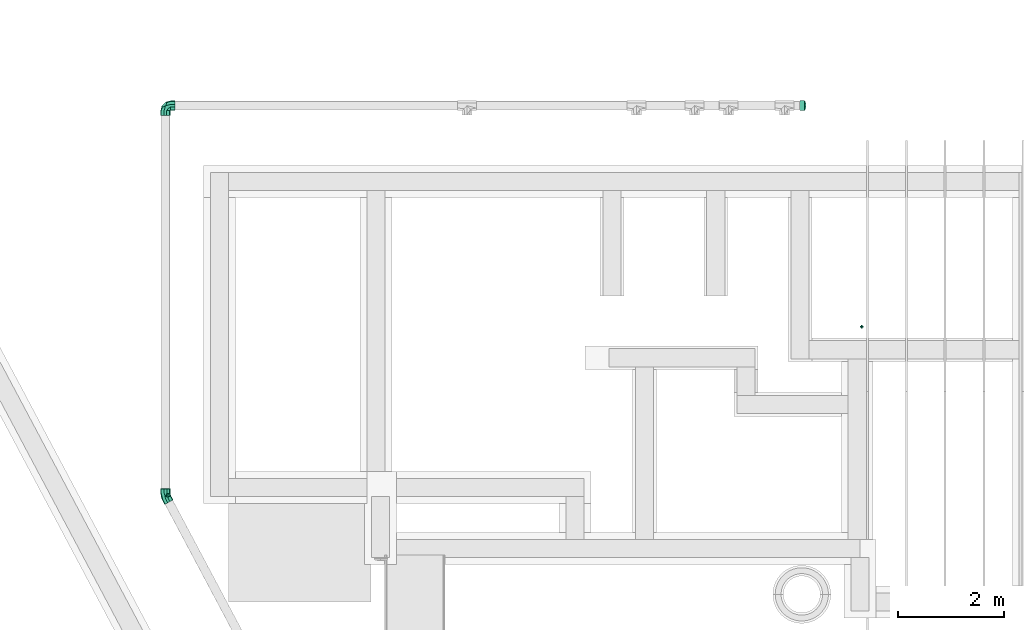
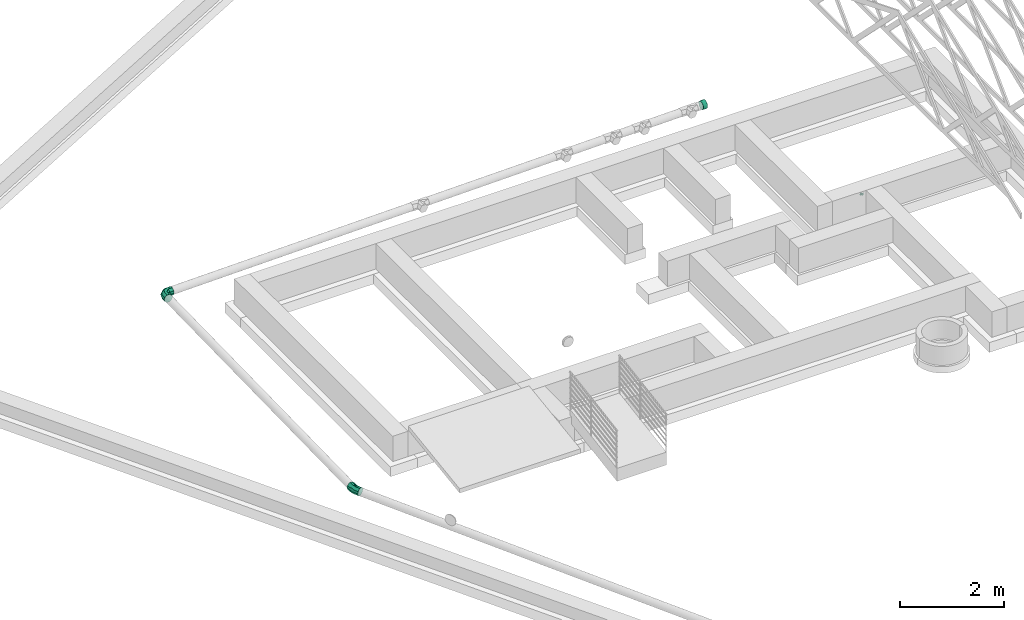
# One storey, part 7 of 8: 4 flow fittings.
"""IFC2X3 building model written with IfcOpenShell, lengths in millimetres."""

from ifc_helpers import new_model, entity, si_unit, converted_unit, derived_unit, direction, frame, origin, place, context, subcontext, project, spatial, faceted_brep, source, transform, mapped, type_object, type_shapes, element, save


model = new_model("IFC2X3")

# Units and contexts
model_context = context("Model", 3, precision=0.01, world=origin(), true_north=direction((6.12303176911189e-17, 1.0)))
body_context = subcontext(model_context, "Body", "Model", "MODEL_VIEW")
ifc_project = project(units=[si_unit("LENGTHUNIT", "METRE", prefix="MILLI"), si_unit("AREAUNIT", "SQUARE_METRE"), si_unit("VOLUMEUNIT", "CUBIC_METRE"), converted_unit("PLANEANGLEUNIT", "DEGREE", entity("IfcRatioMeasure", 0.0174532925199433), si_unit("PLANEANGLEUNIT", "RADIAN"), dimensions=[0, 0, 0, 0, 0, 0, 0]), si_unit("MASSUNIT", "GRAM", prefix="KILO"), derived_unit("MASSDENSITYUNIT", [(si_unit("MASSUNIT", "GRAM", prefix="KILO"), 1), (si_unit("LENGTHUNIT", "METRE"), -3)]), si_unit("TIMEUNIT", "SECOND"), si_unit("FREQUENCYUNIT", "HERTZ"), si_unit("THERMODYNAMICTEMPERATUREUNIT", "DEGREE_CELSIUS"), derived_unit("THERMALTRANSMITTANCEUNIT", [(si_unit("MASSUNIT", "GRAM", prefix="KILO"), 1), (si_unit("THERMODYNAMICTEMPERATUREUNIT", "KELVIN"), -1), (si_unit("TIMEUNIT", "SECOND"), -3)]), derived_unit("VOLUMETRICFLOWRATEUNIT", [(si_unit("LENGTHUNIT", "METRE"), 3), (si_unit("TIMEUNIT", "SECOND"), -1)]), si_unit("ELECTRICCURRENTUNIT", "AMPERE"), si_unit("ELECTRICVOLTAGEUNIT", "VOLT"), si_unit("POWERUNIT", "WATT"), si_unit("FORCEUNIT", "NEWTON", prefix="KILO"), si_unit("ILLUMINANCEUNIT", "LUX"), si_unit("LUMINOUSFLUXUNIT", "LUMEN"), si_unit("LUMINOUSINTENSITYUNIT", "CANDELA"), derived_unit("USERDEFINED", [(si_unit("MASSUNIT", "GRAM", prefix="KILO"), -1), (si_unit("LENGTHUNIT", "METRE"), -2), (si_unit("TIMEUNIT", "SECOND"), 3), (si_unit("LUMINOUSFLUXUNIT", "LUMEN"), 1)]), derived_unit("LINEARVELOCITYUNIT", [(si_unit("LENGTHUNIT", "METRE"), 1), (si_unit("TIMEUNIT", "SECOND"), -1)]), si_unit("PRESSUREUNIT", "PASCAL"), derived_unit("USERDEFINED", [(si_unit("LENGTHUNIT", "METRE"), -2), (si_unit("MASSUNIT", "GRAM", prefix="KILO"), 1), (si_unit("TIMEUNIT", "SECOND"), -2)])], contexts=[model_context])

# Site, building, storey
site_placement = place(None, origin())
site = spatial("IfcSite", under=ifc_project, at=site_placement, Name="Surface", CompositionType="ELEMENT")
building_placement = place(site_placement, origin())
building = spatial("IfcBuilding", under=site, at=building_placement, CompositionType="ELEMENT")
storey_placement = place(building_placement, frame((0.0, 0.0, -445.0)))
storey = spatial("IfcBuildingStorey", under=building, at=storey_placement, Name="T.O.F", CompositionType="ELEMENT", Elevation=-445.0)

# Flow fittings
pipe_fitting_type_1 = type_object("IfcPipeFittingType", Name="Standard", PredefinedType="NOTDEFINED")
shared_shape_1 = source(origin(), body_context, "Body", "Brep", [
    faceted_brep([(-133.349999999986, -92.0750000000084, 0.0), (-133.349999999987, -79.7392890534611, 46.0374999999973), (-133.34999999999, -23.830763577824, 88.9376204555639), (-133.349999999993, 23.8307635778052, 88.9376204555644), (-133.349999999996, 79.7392890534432, 46.0374999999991), (-133.349999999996, 92.0749999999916, 0.0), (-133.349999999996, 79.7392890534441, -46.0375000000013), (-133.349999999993, 23.8307635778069, -88.9376204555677), (-133.34999999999, -23.8307635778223, -88.937620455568), (-133.349999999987, -79.7392890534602, -46.0375000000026), (-44.4499999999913, -92.0750000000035, 0.0), (-44.4499999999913, -79.7392890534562, 46.0374999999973), (-44.4499999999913, -23.8307635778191, 88.9376204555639), (-44.4499999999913, 23.8307635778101, 88.9376204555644), (128.933070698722, 41.5498624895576, 88.9376204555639), (106.561535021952, 83.6347239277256, 88.9376204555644), (28.0633331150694, 41.9065284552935, 88.9376204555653), (50.4348687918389, -0.178332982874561, 88.9376204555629), (-44.4499999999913, 79.7392890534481, 46.0374999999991), (-44.4499999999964, 92.0749999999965, 0.0), (-44.4499999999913, 79.739289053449, -46.0375000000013), (-44.4499999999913, 23.8307635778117, -88.9376204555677), (-44.4499999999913, -23.8307635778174, -88.937620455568), (106.561535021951, 83.6347239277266, -88.9376204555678), (128.933070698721, 41.5498624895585, -88.9376204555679), (50.4348687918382, -0.178332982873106, -88.9376204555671), (28.0633331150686, 41.9065284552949, -88.9376204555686), (-44.4499999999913, -79.7392890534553, -46.0375000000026), (2.19588971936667, -8.80912651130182, 90.9204569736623), (-13.6369127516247, -87.0118063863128, 0.0), (42.0751683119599, -77.857220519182, 0.0), (4.0402064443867, -67.4725882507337, 57.127130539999), (-23.5903236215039, 94.6357184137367, 0.0), (1.82079228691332, 91.2734432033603, 46.037500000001), (76.6774096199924, -49.5452477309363, 46.0374999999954), (82.4675891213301, -60.4376113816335, 0.0), (-3.9693872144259, 102.16580685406, 0.0), (1.8207922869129, 91.2734432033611, -46.0375000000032), (2.19588972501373, -8.80912651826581, -90.9204569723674), (4.04020644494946, -67.4725882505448, -57.1271305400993), (76.6774096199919, -49.5452477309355, -46.0375000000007), (160.965791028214, -18.7094159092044, 0.0), (155.175611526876, -7.81705225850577, -46.0375000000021), (80.3189941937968, 133.001638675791, -46.0375000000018), (74.5288146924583, 143.894002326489, 0.0), (80.318994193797, 133.00163867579, 46.0374999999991), (155.175611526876, -7.81705225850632, 46.0374999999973)], [[[0, 1, 2, 3, 4, 5, 6, 7, 8, 9]], [[0, 10, 11, 1]], [[1, 11, 12, 2]], [[12, 13, 3, 2]], [[14, 15, 16, 17]], [[3, 13, 18, 4]], [[4, 18, 19, 5]], [[5, 19, 20, 6]], [[6, 20, 21, 7]], [[21, 22, 8, 7]], [[23, 24, 25, 26]], [[8, 22, 27, 9]], [[9, 27, 10, 0]], [[12, 28, 13]], [[29, 30, 31]], [[29, 31, 11]], [[11, 31, 12]], [[32, 18, 33]], [[32, 19, 18]], [[18, 13, 28]], [[34, 31, 30]], [[12, 31, 28]], [[30, 35, 34]], [[17, 28, 31]], [[32, 33, 36]], [[17, 16, 28]], [[28, 16, 33]], [[18, 28, 33]], [[11, 10, 29]], [[34, 17, 31]], [[20, 19, 32]], [[20, 37, 38]], [[27, 39, 29]], [[20, 38, 21]], [[29, 10, 27]], [[25, 40, 39]], [[27, 22, 39]], [[20, 32, 37]], [[26, 38, 37]], [[30, 29, 39]], [[26, 25, 38]], [[38, 22, 21]], [[40, 30, 39]], [[39, 38, 25]], [[40, 35, 30]], [[22, 38, 39]], [[37, 32, 36]], [[41, 42, 24, 23, 43, 44, 45, 15, 14, 46]], [[35, 41, 46, 34]], [[34, 46, 14, 17]], [[16, 15, 45, 33]], [[33, 45, 44, 36]], [[36, 44, 43, 37]], [[37, 43, 23, 26]], [[42, 41, 35, 40]], [[24, 42, 40, 25]]]),
])
type_shapes(pipe_fitting_type_1, [shared_shape_1])
flow_fitting_1_placement = place(storey_placement, frame((-12929.117054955, 4744.55804346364, -363.804198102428), z_axis=(0.00498736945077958, -0.0199957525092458, 0.999787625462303), x_axis=(0.0, -0.999800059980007, -0.0199960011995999)))
element("IfcFlowFitting", 1, at=flow_fitting_1_placement, inside=storey, type_object=pipe_fitting_type_1, Name="M_Elbow - PVC - Sch 40:Standard", ObjectType="Standard", context=body_context, shape_type="MappedRepresentation", body=[
    mapped(shared_shape_1, transform((0.0, 0.0, 0.0), scale=1.0)),
])
pipe_fitting_type_2 = type_object("IfcPipeFittingType", Name="Standard", PredefinedType="NOTDEFINED")
shared_shape_2 = source(origin(), body_context, "Body", "Brep", [
    faceted_brep([(92.2020000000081, -70.5335421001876, -59.1846691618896), (92.2020000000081, -58.2855210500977, -69.4619791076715), (106.384592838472, -56.6243176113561, -35.3164225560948), (92.2020000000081, -88.0864408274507, -22.6202431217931), (92.2020000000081, -86.5221980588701, -31.4915046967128), (104.694496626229, -69.1769535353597, 0.0), (101.595487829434, -74.8572630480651, 0.0), (99.2471158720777, -79.1616972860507, 0.0), (96.8987439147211, -83.4661315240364, 0.0), (92.2020000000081, -92.0750000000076, 0.0), (92.2020000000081, -89.6506835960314, -13.7489815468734), (113.227385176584, 30.7968890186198, -37.6780158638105), (92.2020000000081, 31.0130779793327, -85.2077314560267), (108.895963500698, 39.0368712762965, -46.6387353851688), (118.883882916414, 4.8117016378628, -23.4583135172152), (116.66253715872, 16.6539240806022, -31.7567079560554), (119.838398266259, 8.09814142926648, 0.0), (92.2020000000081, -78.5278700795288, -45.3380869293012), (92.2020000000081, 78.5278700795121, -45.3380869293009), (104.694496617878, 69.1769535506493, 0.0), (107.793505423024, 63.4966440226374, 0.0), (92.2020000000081, 86.5221980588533, -31.4915046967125), (106.384592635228, 56.6243195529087, -35.3164203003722), (107.070220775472, 48.4446870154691, -43.6112101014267), (92.2020000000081, 58.2855210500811, -69.4619791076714), (92.2020000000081, 89.6506836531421, -13.7489812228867), (92.2020000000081, 92.0749999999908, 0.0), (96.8987439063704, 83.466131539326, 0.0), (99.2471158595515, 79.1616973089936, 0.0), (101.595487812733, 74.8572630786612, 0.0), (92.2020000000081, 88.0864408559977, -22.6202429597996), (92.2020000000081, -46.0375000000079, -79.7392890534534), (110.736049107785, -38.7105810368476, -40.4931975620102), (107.066110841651, -48.464205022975, -43.6036266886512), (107.793505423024, -63.4966440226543, 0.0), (120.650000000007, 0.0, 0.0), (119.838398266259, -8.09814142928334, 0.0), (117.44967986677, -4.23020745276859, -31.8847194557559), (112.598549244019, -47.9446048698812, 0.0), (110.196027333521, -55.7206244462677, 0.0), (115.001071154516, -40.1685852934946, 0.0), (112.294204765, -15.9253050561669, -49.0345447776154), (111.180522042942, -29.1067429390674, -46.4167970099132), (92.2020000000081, -15.9886559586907, -90.6761738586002), (110.196027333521, 55.7206244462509, 0.0), (92.2020000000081, 70.5335421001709, -59.1846691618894), (107.205341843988, -5.38819613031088, -64.6477596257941), (117.403593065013, 32.3925657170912, 0.0), (112.598549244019, 47.9446048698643, 0.0), (109.638801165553, 23.4960348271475, -54.04988837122), (119.02679653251, 16.1962828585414, 0.0), (92.2020000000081, 15.9886559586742, -90.6761738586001), (92.2020000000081, 46.0374999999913, -79.7392890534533), (119.02679653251, -16.1962828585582, 0.0), (112.270785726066, 5.42864695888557, -51.3398981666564), (92.2020000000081, 0.0, -90.6761738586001), (92.2020000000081, 7.99432797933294, -90.6761738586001), (118.215194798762, 24.2944242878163, 0.0), (92.2020000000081, -31.0130779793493, -85.2077314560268), (115.001071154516, 40.1685852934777, 0.0), (118.215194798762, -24.2944242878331, 0.0), (108.626306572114, 14.3525162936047, -59.7885794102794), (117.403593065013, -32.392565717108, 0.0), (92.2020000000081, 70.5335421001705, 59.1846691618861), (92.2020000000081, 58.2855210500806, 69.461979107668), (106.384592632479, 56.6243195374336, 35.3164203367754), (92.2020000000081, 88.0864408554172, 22.620242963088), (92.2020000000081, 86.5221980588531, 31.4915046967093), (92.2020000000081, 89.6506836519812, 13.7489812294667), (113.227385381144, -30.7968888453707, 37.6780151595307), (92.2020000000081, -31.0130779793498, 85.2077314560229), (108.895963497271, -39.0368711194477, 46.6387355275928), (118.883883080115, -4.81170152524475, 23.4583124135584), (116.662537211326, -16.6539238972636, 31.7567077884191), (107.070220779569, -48.4446870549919, 43.6112100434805), (92.2020000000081, -78.5278700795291, 45.3380869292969), (92.2020000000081, -86.5221980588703, 31.4915046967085), (92.2020000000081, -88.0864408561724, 22.6202429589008), (92.2020000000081, -89.6506836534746, 13.748981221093), (106.384592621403, -56.6243195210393, 35.3164204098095), (92.2020000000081, -58.2855210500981, 69.4619791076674), (92.2020000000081, -70.5335421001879, 59.1846691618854), (117.449680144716, 4.23020752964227, 31.8847180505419), (92.2020000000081, 78.5278700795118, 45.3380869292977), (111.180522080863, 29.1067437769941, 46.4167963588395), (92.2020000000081, 15.9886559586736, 90.6761738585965), (112.294204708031, 15.9253049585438, 49.0345449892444), (107.066111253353, 48.4642055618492, 43.6036246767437), (107.205344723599, 5.38819651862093, 64.6477529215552), (92.2020000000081, 46.0374999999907, 79.7392890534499), (110.736051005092, 38.7105804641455, 40.4931909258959), (109.638801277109, -23.4960347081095, 54.0498881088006), (92.2020000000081, -15.9886559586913, 90.6761738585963), (92.2020000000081, -46.0375000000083, 79.7392890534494), (112.270785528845, -5.42864610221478, 51.3398988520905), (92.2020000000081, 0.0, 90.6761738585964), (92.2020000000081, -7.99432797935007, 90.6761738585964), (92.2020000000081, 31.0130779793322, 85.2077314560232), (108.626306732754, -14.3525158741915, 59.7885791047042), (92.2020000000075, 0.0, 0.0)], [[[0, 1, 2]], [[3, 4, 5, 6, 7, 8, 9, 10]], [[11, 12, 13]], [[14, 15, 16]], [[17, 5, 4]], [[18, 19, 20]], [[19, 18, 21]], [[22, 23, 24]], [[25, 26, 27, 28, 29, 19, 21, 30]], [[31, 32, 33]], [[5, 17, 34]], [[35, 36, 37]], [[0, 38, 39]], [[39, 17, 0]], [[33, 40, 2]], [[41, 42, 43]], [[18, 44, 45]], [[44, 18, 20]], [[43, 46, 41]], [[47, 13, 23]], [[34, 17, 39]], [[48, 45, 44]], [[45, 48, 22]], [[49, 11, 50]], [[12, 49, 51]], [[13, 52, 23]], [[14, 16, 35]], [[42, 41, 53]], [[54, 55, 56]], [[41, 36, 53]], [[13, 47, 57]], [[11, 13, 57]], [[12, 52, 13]], [[52, 24, 23]], [[43, 42, 58]], [[59, 22, 48]], [[59, 47, 23]], [[50, 15, 49]], [[46, 37, 41]], [[32, 58, 42]], [[42, 53, 60]], [[42, 60, 32]], [[36, 41, 37]], [[55, 46, 43]], [[46, 54, 37]], [[61, 49, 15]], [[56, 51, 61]], [[55, 54, 46]], [[33, 32, 62]], [[32, 60, 62]], [[58, 32, 31]], [[40, 38, 2]], [[1, 31, 33]], [[33, 62, 40]], [[23, 22, 59]], [[45, 22, 24]], [[0, 2, 38]], [[33, 2, 1]], [[15, 50, 16]], [[37, 14, 35]], [[61, 15, 54]], [[56, 61, 54]], [[51, 49, 61]], [[37, 54, 14]], [[15, 14, 54]], [[50, 11, 57]], [[12, 11, 49]], [[63, 64, 65]], [[66, 67, 19, 29, 28, 27, 26, 68]], [[69, 70, 71]], [[72, 73, 36]], [[62, 71, 74]], [[75, 5, 34]], [[7, 6, 5, 76, 77, 78, 9, 8]], [[5, 75, 76]], [[79, 74, 80]], [[75, 39, 81]], [[39, 75, 34]], [[35, 16, 82]], [[63, 44, 83]], [[83, 19, 67]], [[84, 85, 86]], [[65, 87, 59]], [[63, 48, 44]], [[85, 88, 86]], [[89, 90, 87]], [[19, 83, 20]], [[38, 81, 39]], [[20, 83, 44]], [[81, 38, 79]], [[91, 69, 53]], [[70, 91, 92]], [[71, 93, 74]], [[72, 36, 35]], [[84, 86, 50]], [[94, 95, 96]], [[86, 16, 50]], [[71, 62, 60]], [[69, 71, 60]], [[70, 93, 71]], [[93, 80, 74]], [[85, 84, 97]], [[40, 79, 38]], [[40, 62, 74]], [[53, 73, 91]], [[88, 82, 86]], [[90, 97, 84]], [[84, 50, 57]], [[84, 57, 90]], [[16, 86, 82]], [[95, 88, 85]], [[88, 94, 82]], [[98, 91, 73]], [[96, 92, 98]], [[95, 94, 88]], [[87, 90, 47]], [[90, 57, 47]], [[97, 90, 89]], [[59, 48, 65]], [[64, 89, 87]], [[87, 47, 59]], [[74, 79, 40]], [[81, 79, 80]], [[63, 65, 48]], [[87, 65, 64]], [[73, 53, 36]], [[82, 72, 35]], [[98, 73, 94]], [[96, 98, 94]], [[92, 91, 98]], [[82, 94, 72]], [[73, 72, 94]], [[53, 69, 60]], [[70, 69, 91]], [[99, 0, 17]], [[99, 17, 4]], [[99, 4, 3]], [[99, 1, 0]], [[99, 31, 1]], [[99, 58, 31]], [[99, 43, 58]], [[99, 3, 10]], [[99, 10, 9]], [[99, 9, 78]], [[99, 55, 43]], [[99, 56, 55]], [[99, 51, 56]], [[99, 12, 51]], [[99, 52, 12]], [[99, 24, 52]], [[99, 45, 24]], [[99, 18, 45]], [[99, 21, 18]], [[99, 30, 21]], [[99, 25, 30]], [[99, 26, 25]], [[99, 78, 77]], [[99, 77, 76]], [[99, 76, 75]], [[99, 75, 81]], [[99, 81, 80]], [[99, 80, 93]], [[99, 93, 70]], [[99, 70, 92]], [[99, 92, 96]], [[99, 68, 26]], [[99, 66, 68]], [[99, 67, 66]], [[99, 83, 67]], [[99, 63, 83]], [[99, 64, 63]], [[99, 89, 64]], [[99, 97, 89]], [[99, 85, 97]], [[99, 96, 95]], [[99, 95, 85]]]),
    faceted_brep([(92.2020000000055, 46.0374999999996, -79.7392890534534), (92.2020000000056, 65.106856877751, -65.1068568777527), (92.2020000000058, 79.7392890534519, -46.0375000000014), (92.2020000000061, 88.9376204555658, -23.8307635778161), (92.2020000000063, 92.075, 0.0), (92.2020000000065, 88.937620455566, 23.8307635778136), (92.2020000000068, 79.7392890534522, 46.037499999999), (92.202000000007, 65.1068568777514, 65.1068568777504), (92.2020000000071, 46.0375000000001, 79.7392890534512), (92.2020000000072, 23.8307635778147, 88.937620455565), (92.2020000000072, 0.0, 92.0749999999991), (92.2020000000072, -23.8307635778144, 88.9376204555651), (92.2020000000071, -46.0374999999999, 79.7392890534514), (92.202000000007, -65.1068568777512, 65.1068568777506), (92.2020000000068, -79.7392890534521, 46.0374999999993), (92.2020000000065, -88.9376204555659, 23.8307635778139), (92.2020000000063, -92.075, 0.0), (92.2020000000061, -88.9376204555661, -23.8307635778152), (92.2020000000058, -79.7392890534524, -46.0375000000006), (92.2020000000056, -65.1068568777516, -65.1068568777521), (92.2020000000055, -46.0375000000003, -79.739289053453), (92.2020000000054, -23.830763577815, -88.9376204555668), (92.2020000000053, 0.0, -92.075000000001), (92.2020000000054, 23.8307635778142, -88.937620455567), (0.0, 23.8307635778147, 88.9376204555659), (0.0, 46.0375000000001, 79.7392890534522), (0.0, 65.1068568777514, 65.1068568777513), (0.0, 79.7392890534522, 46.0375), (0.0, 88.937620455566, 23.8307635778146), (0.0, 92.075, 0.0), (0.0, 88.9376204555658, -23.8307635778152), (0.0, 79.7392890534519, -46.0375000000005), (0.0, 65.106856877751, -65.1068568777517), (0.0, 46.0374999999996, -79.7392890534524), (0.0, 23.8307635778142, -88.9376204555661), (0.0, 0.0, -92.075), (0.0, -23.830763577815, -88.9376204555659), (0.0, -46.0375000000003, -79.739289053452), (0.0, -65.1068568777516, -65.1068568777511), (0.0, -79.7392890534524, -46.0374999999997), (0.0, -88.9376204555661, -23.8307635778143), (0.0, -92.075, 0.0), (0.0, -88.9376204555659, 23.8307635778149), (0.0, -79.7392890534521, 46.0375000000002), (0.0, -65.1068568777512, 65.1068568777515), (0.0, -46.0374999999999, 79.7392890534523), (0.0, -23.8307635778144, 88.937620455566), (0.0, 0.0, 92.075)], [[[0, 1, 2, 3, 4, 5, 6, 7, 8, 9, 10, 11, 12, 13, 14, 15, 16, 17, 18, 19, 20, 21, 22, 23]], [[24, 25, 26, 27, 28, 29, 30, 31, 32, 33, 34, 35, 36, 37, 38, 39, 40, 41, 42, 43, 44, 45, 46, 47]], [[17, 40, 39, 18]], [[38, 19, 18, 39]], [[20, 37, 36, 21]], [[38, 37, 20, 19]], [[21, 36, 35, 22]], [[40, 17, 16, 41]], [[23, 34, 33, 0]], [[32, 1, 0, 33]], [[2, 31, 30, 3]], [[32, 31, 2, 1]], [[3, 30, 29, 4]], [[34, 23, 22, 35]], [[28, 5, 4, 29]], [[27, 6, 5, 28]], [[24, 47, 10, 9]], [[26, 7, 6, 27]], [[25, 8, 7, 26]], [[25, 24, 9, 8]], [[11, 46, 45, 12]], [[44, 13, 12, 45]], [[14, 43, 42, 15]], [[44, 43, 14, 13]], [[15, 42, 41, 16]], [[46, 11, 10, 47]]]),
])
type_shapes(pipe_fitting_type_2, [shared_shape_2])
flow_fitting_2_placement = place(storey_placement, frame((-1002.10462128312, 12081.3835294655, 21.4725602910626), z_axis=(-0.019996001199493, 0.0, 0.999800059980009), x_axis=(0.999800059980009, 0.0, 0.019996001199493)))
element("IfcFlowFitting", 2, at=flow_fitting_2_placement, inside=storey, type_object=pipe_fitting_type_2, Name="M_Cap - PVC - Sch 40:Standard", ObjectType="Standard", context=body_context, shape_type="MappedRepresentation", body=[
    mapped(shared_shape_2, transform((0.0, 0.0, 0.0), scale=1.0)),
])
pipe_fitting_type_3 = type_object("IfcPipeFittingType", Name="Standard", PredefinedType="NOTDEFINED")
shared_shape_3 = source(origin(), body_context, "Body", "Brep", [
    faceted_brep([(-181.731624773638, -92.0750000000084, 0.0), (-181.731624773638, -79.7392890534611, 46.0374999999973), (-181.731624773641, -23.830763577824, 88.9376204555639), (-181.731624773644, 23.8307635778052, 88.9376204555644), (-181.731624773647, 79.7392890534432, 46.0374999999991), (-181.731624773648, 92.0749999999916, 0.0), (-181.731624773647, 79.7392890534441, -46.0375000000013), (-181.731624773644, 23.8307635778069, -88.9376204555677), (-181.731624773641, -23.8307635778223, -88.937620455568), (-181.731624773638, -79.7392890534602, -46.0375000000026), (-92.8316247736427, -92.0750000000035, 0.0), (-92.8316247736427, -79.7392890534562, 46.0374999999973), (-92.8316247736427, -23.830763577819, 88.9376204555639), (-92.8316247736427, 23.8307635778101, 88.9376204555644), (23.9034252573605, 181.722081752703, 88.9376204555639), (-23.7580980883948, 181.74113874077, 88.9376204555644), (-23.7936438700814, 92.8411458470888, 88.9376204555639), (23.8678794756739, 92.8220888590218, 88.9376204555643), (-92.8316247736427, 79.7392890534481, 46.0374999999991), (-92.8316247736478, 92.0749999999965, 0.0), (-92.8316247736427, 79.739289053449, -46.0375000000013), (-92.8316247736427, 23.8307635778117, -88.9376204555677), (-92.8316247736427, -23.8307635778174, -88.937620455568), (-23.7580980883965, 181.74113874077, -88.9376204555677), (23.9034252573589, 181.722081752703, -88.937620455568), (23.8678794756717, 92.8220888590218, -88.9376204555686), (-23.7936438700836, 92.8411458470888, -88.937620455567), (-92.8316247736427, -79.7392890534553, -46.0375000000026), (-0.381097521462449, -67.3095590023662, 0.0), (-31.8286824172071, -59.8568084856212, 57.9031569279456), (-54.0820826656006, 54.1037102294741, 83.841636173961), (-79.7021648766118, 92.8635003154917, 46.0374999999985), (-2.48022608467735, 2.48120892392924, 85.1909171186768), (33.4643042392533, -33.4776872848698, 0.0), (59.8695265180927, 31.8047393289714, 57.9031576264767), (-92.2704709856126, 92.3073717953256, 0.0), (79.7764004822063, 92.7997343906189, 46.0374999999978), (92.112110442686, 92.7948020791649, 0.0), (67.309705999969, 0.354184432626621, 0.0), (-92.0378748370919, 92.8684326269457, 0.0), (59.8695263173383, 31.804739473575, -57.9031579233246), (-2.48022532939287, 2.48120908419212, -85.1909169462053), (-31.8286822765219, -59.8568084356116, -57.9031569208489), (-54.0820822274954, 54.1037099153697, -83.8416364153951), (-79.702164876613, 92.8635003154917, -46.0375000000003), (79.7764004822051, 92.7997343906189, -46.0375000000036), (-79.6666190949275, 181.763493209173, -46.0375000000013), (-92.0023290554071, 181.768425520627, 0.0), (-79.6666190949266, 181.763493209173, 46.0374999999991), (79.8119462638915, 181.6997272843, 46.0374999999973), (92.1476562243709, 181.694794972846, 0.0), (79.8119462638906, 181.6997272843, -46.0375000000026)], [[[0, 1, 2, 3, 4, 5, 6, 7, 8, 9]], [[0, 10, 11, 1]], [[1, 11, 12, 2]], [[12, 13, 3, 2]], [[14, 15, 16, 17]], [[3, 13, 18, 4]], [[4, 18, 19, 5]], [[5, 19, 20, 6]], [[6, 20, 21, 7]], [[21, 22, 8, 7]], [[23, 24, 25, 26]], [[8, 22, 27, 9]], [[9, 27, 10, 0]], [[10, 28, 11]], [[28, 29, 11]], [[18, 30, 31]], [[29, 12, 11]], [[13, 12, 32]], [[33, 34, 32]], [[35, 19, 18]], [[13, 30, 18]], [[17, 32, 34]], [[29, 28, 33]], [[30, 32, 16]], [[34, 36, 17]], [[32, 29, 33]], [[37, 36, 38]], [[34, 33, 38]], [[36, 34, 38]], [[32, 30, 13]], [[39, 35, 31]], [[32, 12, 29]], [[35, 18, 31]], [[16, 31, 30]], [[16, 32, 17]], [[40, 38, 33]], [[41, 33, 42]], [[43, 20, 44]], [[43, 41, 21]], [[10, 27, 28]], [[42, 27, 22]], [[27, 42, 28]], [[28, 42, 33]], [[41, 25, 40]], [[20, 19, 35]], [[35, 39, 44]], [[26, 43, 44]], [[45, 40, 25]], [[20, 43, 21]], [[25, 41, 26]], [[40, 45, 38]], [[22, 21, 41]], [[45, 37, 38]], [[33, 41, 40]], [[22, 41, 42]], [[41, 43, 26]], [[44, 20, 35]], [[23, 46, 47, 48, 15, 14, 49, 50, 51, 24]], [[37, 50, 49, 36]], [[36, 49, 14, 17]], [[16, 15, 48, 31]], [[31, 48, 47, 39]], [[39, 47, 46, 44]], [[44, 46, 23, 26]], [[25, 24, 51, 45]], [[45, 51, 50, 37]]]),
])
type_shapes(pipe_fitting_type_3, [shared_shape_3])
flow_fitting_3_placement = place(storey_placement, frame((-12929.117054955, 12081.3835294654, -217.067688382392), z_axis=(-0.0199920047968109, -0.0199920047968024, 0.999600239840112), x_axis=(-0.999800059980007, 0.0, -0.0199960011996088)))
element("IfcFlowFitting", 3, at=flow_fitting_3_placement, inside=storey, type_object=pipe_fitting_type_3, Name="M_Elbow - PVC - Sch 40:Standard", ObjectType="Standard", context=body_context, shape_type="MappedRepresentation", body=[
    mapped(shared_shape_3, transform((0.0, 0.0, 0.0), scale=1.0)),
])
pipe_fitting_type_4 = type_object("IfcPipeFittingType", Name="Standard", PredefinedType="NOTDEFINED")
shared_shape_4 = source(origin(), body_context, "Body", "Brep", [
    faceted_brep([(32.5374000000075, -6.94690000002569, 6.94689999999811), (32.5374000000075, 0.0, 13.8937999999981), (7.78658203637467, -7.78658203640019, 11.5068161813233), (10.8401910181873, -10.8401910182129, 5.75340809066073), (13.8938, -13.8938000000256, 0.0), (32.5374000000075, -13.8938000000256, 0.0), (0.0, 0.0, 13.8937999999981), (5.0411632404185, 5.04116324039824, 11.7266586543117), (32.5374000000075, 3.47344999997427, 10.4203499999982), (13.8938000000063, 13.8937999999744, 0.0), (10.082326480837, 10.0823264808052, 9.55951730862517), (32.5374000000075, 6.94689999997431, 6.94689999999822), (32.5374000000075, 13.8937999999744, 0.0), (32.5374000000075, 6.94689999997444, -6.94690000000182), (32.5374000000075, 0.0, -13.8938000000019), (7.78658203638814, 7.78658203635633, -11.5068161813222), (10.8401910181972, 10.8401910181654, -5.75340809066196), (0.0, 0.0, -13.8938000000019), (5.04116324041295, -5.04116324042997, -11.7266586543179), (32.5374000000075, -3.47345000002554, -10.4203500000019), (10.0823264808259, -10.0823264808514, -9.55951730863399), (32.5374000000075, -6.94690000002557, -6.94690000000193), (3.47345000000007, -32.5374000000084, -10.4203500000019), (6.94690000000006, -32.5374000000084, -6.94690000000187), (13.8938000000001, -32.5374000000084, 0.0), (6.94689999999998, -32.5374000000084, 6.94689999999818), (0.0, -32.5374000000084, 13.8937999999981), (-3.47345000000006, -32.5374000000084, 10.4203499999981), (-6.94690000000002, -32.5374000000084, 6.94689999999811), (-13.8938, -32.5374000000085, 0.0), (-6.94689999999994, -32.5374000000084, -6.94690000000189), (0.0, -32.5374000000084, -13.8938000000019), (-5.041163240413, -5.04116324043, 11.7266586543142), (-13.8938, -13.8938000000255, 0.0), (-10.0823264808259, -10.0823264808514, 9.55951730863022), (-10.840507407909, -10.8405074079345, -5.75319397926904), (-7.78721481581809, -7.78721481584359, -11.5063879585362), (-3.4734499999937, 32.5373999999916, -10.4203500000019), (-6.9468999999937, 32.5373999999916, -6.94690000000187), (-13.8937999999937, 32.5373999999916, 0.0), (-6.94689999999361, 32.5373999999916, 6.94689999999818), (0.0, 32.5373999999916, 13.8937999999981), (3.47345000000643, 32.5373999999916, 10.4203499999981), (6.9469000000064, 32.5373999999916, 6.9468999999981), (13.8938000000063, 32.5373999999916, 0.0), (6.94690000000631, 32.5373999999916, -6.94690000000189), (0.0, 32.5373999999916, -13.8938000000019), (-10.8401910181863, 10.8401910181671, 5.75340809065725), (-7.7865820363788, 7.7865820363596, 11.5068161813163), (-13.8937999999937, 13.8937999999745, 0.0), (-5.04116324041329, 5.04116324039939, -11.7266586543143), (-10.0823264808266, 10.0823264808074, -9.55951730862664), (-32.5373999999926, -6.94690000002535, -6.94690000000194), (-32.5373999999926, -13.8938000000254, 0.0), (-32.5373999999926, -6.94690000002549, 6.94689999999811), (-32.5373999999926, -3.47345000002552, 10.4203499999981), (-32.5373999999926, 0.0, 13.8937999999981), (-32.5373999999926, 6.94689999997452, 6.94689999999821), (-32.5373999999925, 13.8937999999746, 0.0), (-32.5373999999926, 6.94689999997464, -6.94690000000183), (-32.5373999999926, 3.47344999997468, -10.4203500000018), (-32.5373999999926, 0.0, -13.8938000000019)], [[[0, 1, 2]], [[3, 4, 5]], [[0, 3, 5]], [[1, 6, 2]], [[7, 1, 8]], [[9, 10, 11]], [[10, 8, 11]], [[7, 8, 10]], [[0, 2, 3]], [[11, 12, 9]], [[6, 1, 7]], [[13, 14, 15]], [[16, 9, 12]], [[13, 16, 12]], [[14, 17, 15]], [[18, 14, 19]], [[4, 20, 21]], [[20, 19, 21]], [[18, 19, 20]], [[13, 15, 16]], [[21, 5, 4]], [[17, 14, 18]], [[22, 23, 24, 25, 26, 27, 28, 29, 30, 31]], [[26, 6, 32]], [[33, 28, 34]], [[33, 29, 28]], [[27, 26, 32]], [[34, 27, 32]], [[24, 3, 25]], [[3, 2, 25]], [[2, 26, 25]], [[6, 26, 2]], [[3, 24, 4]], [[28, 27, 34]], [[31, 17, 18]], [[20, 22, 18]], [[4, 23, 20]], [[4, 24, 23]], [[22, 31, 18]], [[23, 22, 20]], [[29, 35, 30]], [[36, 31, 30]], [[17, 31, 36]], [[35, 36, 30]], [[35, 29, 33]], [[37, 38, 39, 40, 41, 42, 43, 44, 45, 46]], [[41, 6, 7]], [[9, 43, 10]], [[9, 44, 43]], [[42, 41, 7]], [[10, 42, 7]], [[39, 47, 40]], [[47, 48, 40]], [[48, 41, 40]], [[6, 41, 48]], [[47, 39, 49]], [[43, 42, 10]], [[46, 17, 50]], [[51, 37, 50]], [[49, 38, 51]], [[49, 39, 38]], [[37, 46, 50]], [[38, 37, 51]], [[44, 16, 45]], [[15, 46, 45]], [[17, 46, 15]], [[16, 15, 45]], [[16, 44, 9]], [[52, 53, 54, 55, 56, 57, 58, 59, 60, 61]], [[14, 13, 12, 11, 8, 1, 0, 5, 21, 19]], [[33, 54, 53]], [[34, 55, 54]], [[32, 56, 55]], [[33, 34, 54]], [[34, 32, 55]], [[57, 47, 58]], [[47, 49, 58]], [[57, 48, 47]], [[57, 56, 48]], [[48, 56, 6]], [[6, 56, 32]], [[49, 59, 58]], [[51, 60, 59]], [[50, 61, 60]], [[49, 51, 59]], [[51, 50, 60]], [[52, 35, 53]], [[35, 33, 53]], [[52, 36, 35]], [[52, 61, 36]], [[36, 61, 17]], [[17, 61, 50]]]),
])
type_shapes(pipe_fitting_type_4, [shared_shape_4])
flow_fitting_4_placement = place(storey_placement, frame((161.887985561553, 7927.6469698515, 51.9562286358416)))
element("IfcFlowFitting", 4, at=flow_fitting_4_placement, inside=storey, type_object=pipe_fitting_type_4, Name="M_Cross - PVC - Sch 40:Standard", ObjectType="Standard", context=body_context, shape_type="MappedRepresentation", body=[
    mapped(shared_shape_4, transform((0.0, 0.0, 0.0), scale=1.0)),
])

save(model, "model.ifc")
